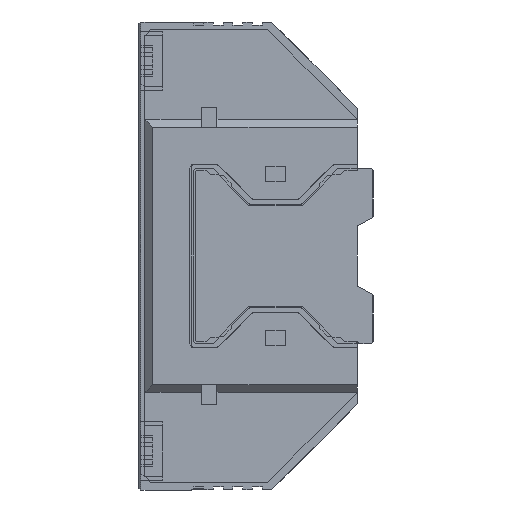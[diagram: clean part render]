
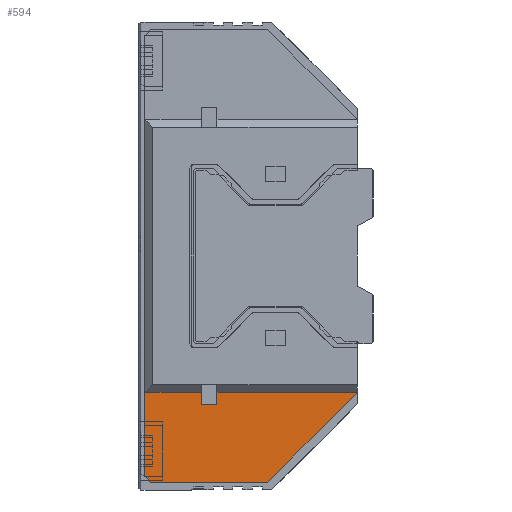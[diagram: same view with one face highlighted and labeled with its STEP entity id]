
A CAD part, left-side view. The second image highlights one B-rep face of the part: STEP entity #594.
In plain terms, the highlighted planar face has unit normal (-1, 0, 0).
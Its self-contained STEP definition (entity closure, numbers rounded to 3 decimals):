
#594 = ADVANCED_FACE( '', ( #1871 ), #1872, .T. );
#1871 = FACE_OUTER_BOUND( '', #3368, .T. );
#1872 = PLANE( '', #3369 );
#3368 = EDGE_LOOP( '', ( #6972, #6973, #6974, #6975, #6976, #6977, #6978, #6979, #6980 ) );
#3369 = AXIS2_PLACEMENT_3D( '', #6981, #6982, #6983 );
#6972 = ORIENTED_EDGE( '', *, *, #9681, .F. );
#6973 = ORIENTED_EDGE( '', *, *, #9696, .F. );
#6974 = ORIENTED_EDGE( '', *, *, #9697, .F. );
#6975 = ORIENTED_EDGE( '', *, *, #9698, .F. );
#6976 = ORIENTED_EDGE( '', *, *, #9699, .F. );
#6977 = ORIENTED_EDGE( '', *, *, #9700, .F. );
#6978 = ORIENTED_EDGE( '', *, *, #9701, .F. );
#6979 = ORIENTED_EDGE( '', *, *, #9675, .T. );
#6980 = ORIENTED_EDGE( '', *, *, #9679, .T. );
#6981 = CARTESIAN_POINT( '', ( -85.5, 82.5, -35. ) );
#6982 = DIRECTION( '', ( -1., 0., 0. ) );
#6983 = DIRECTION( '', ( 0., 0., 1. ) );
#9675 = EDGE_CURVE( '', #11970, #11968, #11971, .T. );
#9679 = EDGE_CURVE( '', #11968, #11975, #11977, .T. );
#9681 = EDGE_CURVE( '', #11979, #11975, #11981, .T. );
#9696 = EDGE_CURVE( '', #12002, #11979, #12005, .T. );
#9697 = EDGE_CURVE( '', #12006, #12002, #12007, .T. );
#9698 = EDGE_CURVE( '', #12008, #12006, #12009, .T. );
#9699 = EDGE_CURVE( '', #12010, #12008, #12011, .T. );
#9700 = EDGE_CURVE( '', #11890, #12010, #12012, .T. );
#9701 = EDGE_CURVE( '', #11970, #11890, #12013, .T. );
#11890 = VERTEX_POINT( '', #15054 );
#11968 = VERTEX_POINT( '', #15175 );
#11970 = VERTEX_POINT( '', #15178 );
#11971 = LINE( '', #15179, #15180 );
#11975 = VERTEX_POINT( '', #15186 );
#11977 = LINE( '', #15189, #15190 );
#11979 = VERTEX_POINT( '', #15192 );
#11981 = LINE( '', #15195, #15196 );
#12002 = VERTEX_POINT( '', #15229 );
#12005 = LINE( '', #15234, #15235 );
#12006 = VERTEX_POINT( '', #15236 );
#12007 = LINE( '', #15237, #15238 );
#12008 = VERTEX_POINT( '', #15239 );
#12009 = LINE( '', #15240, #15241 );
#12010 = VERTEX_POINT( '', #15242 );
#12011 = LINE( '', #15243, #15244 );
#12012 = LINE( '', #15245, #15246 );
#12013 = LINE( '', #15247, #15248 );
#15054 = CARTESIAN_POINT( '', ( -85.5, -19., -35. ) );
#15175 = CARTESIAN_POINT( '', ( -85.5, 17., -38. ) );
#15178 = CARTESIAN_POINT( '', ( -85.5, 17., -35. ) );
#15179 = CARTESIAN_POINT( '', ( -85.5, 17., -35. ) );
#15180 = VECTOR( '', #18203, 1000. );
#15186 = CARTESIAN_POINT( '', ( -85.5, 21., -38. ) );
#15189 = CARTESIAN_POINT( '', ( -85.5, 82.5, -38. ) );
#15190 = VECTOR( '', #18207, 1000. );
#15192 = CARTESIAN_POINT( '', ( -85.5, 21., -35. ) );
#15195 = CARTESIAN_POINT( '', ( -85.5, 21., -35. ) );
#15196 = VECTOR( '', #18209, 1000. );
#15229 = CARTESIAN_POINT( '', ( -85.5, 35.5, -35. ) );
#15234 = CARTESIAN_POINT( '', ( -85.5, 82.5, -35. ) );
#15235 = VECTOR( '', #18224, 1000. );
#15236 = CARTESIAN_POINT( '', ( -85.5, 35.5, -56.5 ) );
#15237 = CARTESIAN_POINT( '', ( -85.5, 35.5, -56.5 ) );
#15238 = VECTOR( '', #18225, 1000. );
#15239 = CARTESIAN_POINT( '', ( -85.5, 34., -58. ) );
#15240 = CARTESIAN_POINT( '', ( -85.5, 34., -58. ) );
#15241 = VECTOR( '', #18226, 1000. );
#15242 = CARTESIAN_POINT( '', ( -85.5, 4., -58. ) );
#15243 = CARTESIAN_POINT( '', ( -85.5, 4., -58. ) );
#15244 = VECTOR( '', #18227, 1000. );
#15245 = CARTESIAN_POINT( '', ( -85.5, -19., -35. ) );
#15246 = VECTOR( '', #18228, 1000. );
#15247 = CARTESIAN_POINT( '', ( -85.5, 82.5, -35. ) );
#15248 = VECTOR( '', #18229, 1000. );
#18203 = DIRECTION( '', ( 0., 0., -1. ) );
#18207 = DIRECTION( '', ( 0., 1., 0. ) );
#18209 = DIRECTION( '', ( 0., 0., -1. ) );
#18224 = DIRECTION( '', ( 0., -1., 0. ) );
#18225 = DIRECTION( '', ( 0., 0., 1. ) );
#18226 = DIRECTION( '', ( 0., 0.707, 0.707 ) );
#18227 = DIRECTION( '', ( 0., 1., 0. ) );
#18228 = DIRECTION( '', ( 0., 0.707, -0.707 ) );
#18229 = DIRECTION( '', ( 0., -1., 0. ) );
